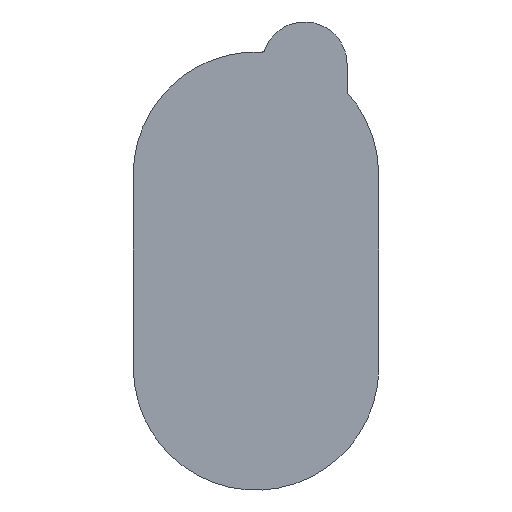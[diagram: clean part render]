
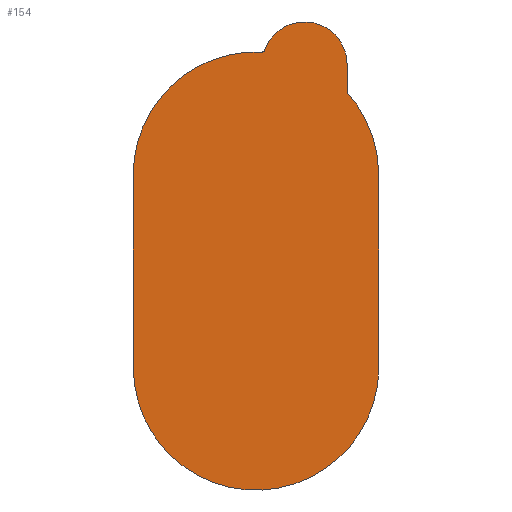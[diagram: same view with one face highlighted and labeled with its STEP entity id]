
A CAD part, front view. The second image highlights one B-rep face of the part: STEP entity #154.
In plain terms, the highlighted planar face has unit normal (0, -1, 0).
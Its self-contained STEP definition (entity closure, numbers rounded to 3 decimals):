
#154=ADVANCED_FACE('',(#213),#1050,.T.);
#213=FACE_OUTER_BOUND('',#288,.T.);
#288=EDGE_LOOP('',(#574,#575,#576,#577,#578,#579,#580,#581,#582));
#574=ORIENTED_EDGE('',*,*,#705,.T.);
#575=ORIENTED_EDGE('',*,*,#709,.T.);
#576=ORIENTED_EDGE('',*,*,#712,.T.);
#577=ORIENTED_EDGE('',*,*,#715,.T.);
#578=ORIENTED_EDGE('',*,*,#718,.T.);
#579=ORIENTED_EDGE('',*,*,#721,.T.);
#580=ORIENTED_EDGE('',*,*,#724,.T.);
#581=ORIENTED_EDGE('',*,*,#727,.T.);
#582=ORIENTED_EDGE('',*,*,#729,.T.);
#705=EDGE_CURVE('',#977,#976,#770,.T.);
#709=EDGE_CURVE('',#976,#979,#774,.T.);
#712=EDGE_CURVE('',#979,#981,#777,.T.);
#715=EDGE_CURVE('',#981,#983,#780,.T.);
#718=EDGE_CURVE('',#983,#985,#783,.T.);
#721=EDGE_CURVE('',#985,#987,#786,.T.);
#724=EDGE_CURVE('',#987,#989,#789,.T.);
#727=EDGE_CURVE('',#989,#991,#792,.T.);
#729=EDGE_CURVE('',#991,#977,#794,.T.);
#770=(
BOUNDED_CURVE()
B_SPLINE_CURVE(2,(#1991,#1992,#1993,#1994,#1995,#1996,#1997,#1998,#1999),
 .UNSPECIFIED.,.F.,.F.)
B_SPLINE_CURVE_WITH_KNOTS((3,2,2,2,3),(-3452.314,-3177.112,
-2901.909,-2626.707,-2351.505),.UNSPECIFIED.)
CURVE()
GEOMETRIC_REPRESENTATION_ITEM()
RATIONAL_B_SPLINE_CURVE((1.,0.924,1.,0.924,1.,0.924,
1.,0.924,1.))
REPRESENTATION_ITEM('')
);
#774=(
BOUNDED_CURVE()
B_SPLINE_CURVE(2,(#2007,#2008,#2009),.UNSPECIFIED.,.F.,.F.)
B_SPLINE_CURVE_WITH_KNOTS((3,3),(-2351.505,-1802.756),
 .UNSPECIFIED.)
CURVE()
GEOMETRIC_REPRESENTATION_ITEM()
RATIONAL_B_SPLINE_CURVE((1.,1.,1.))
REPRESENTATION_ITEM('')
);
#777=(
BOUNDED_CURVE()
B_SPLINE_CURVE(2,(#2015,#2016,#2017),.UNSPECIFIED.,.F.,.F.)
B_SPLINE_CURVE_WITH_KNOTS((3,3),(-1802.756,-1547.691),
 .UNSPECIFIED.)
CURVE()
GEOMETRIC_REPRESENTATION_ITEM()
RATIONAL_B_SPLINE_CURVE((1.,0.934,1.))
REPRESENTATION_ITEM('')
);
#780=(
BOUNDED_CURVE()
B_SPLINE_CURVE(2,(#2023,#2024,#2025),.UNSPECIFIED.,.F.,.F.)
B_SPLINE_CURVE_WITH_KNOTS((3,3),(-1547.691,-1543.329),
 .UNSPECIFIED.)
CURVE()
GEOMETRIC_REPRESENTATION_ITEM()
RATIONAL_B_SPLINE_CURVE((1.,0.935,1.))
REPRESENTATION_ITEM('')
);
#783=(
BOUNDED_CURVE()
B_SPLINE_CURVE(2,(#2031,#2032,#2033),.UNSPECIFIED.,.F.,.F.)
B_SPLINE_CURVE_WITH_KNOTS((3,3),(-1543.329,-1465.93),
 .UNSPECIFIED.)
CURVE()
GEOMETRIC_REPRESENTATION_ITEM()
RATIONAL_B_SPLINE_CURVE((1.,1.,1.))
REPRESENTATION_ITEM('')
);
#786=(
BOUNDED_CURVE()
B_SPLINE_CURVE(2,(#2041,#2042,#2043,#2044,#2045),.UNSPECIFIED.,.F.,.F.)
B_SPLINE_CURVE_WITH_KNOTS((3,2,3),(-1465.93,-1295.242,
-1124.554),.UNSPECIFIED.)
CURVE()
GEOMETRIC_REPRESENTATION_ITEM()
RATIONAL_B_SPLINE_CURVE((1.,0.763,1.,0.763,1.))
REPRESENTATION_ITEM('')
);
#789=(
BOUNDED_CURVE()
B_SPLINE_CURVE(2,(#2051,#2052,#2053),.UNSPECIFIED.,.F.,.F.)
B_SPLINE_CURVE_WITH_KNOTS((3,3),(-1124.554,-1116.818),
 .UNSPECIFIED.)
CURVE()
GEOMETRIC_REPRESENTATION_ITEM()
RATIONAL_B_SPLINE_CURVE((1.,0.799,1.))
REPRESENTATION_ITEM('')
);
#792=(
BOUNDED_CURVE()
B_SPLINE_CURVE(2,(#2061,#2062,#2063,#2064,#2065),.UNSPECIFIED.,.F.,.F.)
B_SPLINE_CURVE_WITH_KNOTS((3,2,3),(-1116.818,-832.783,
-548.749),.UNSPECIFIED.)
CURVE()
GEOMETRIC_REPRESENTATION_ITEM()
RATIONAL_B_SPLINE_CURVE((1.,0.919,1.,0.919,1.))
REPRESENTATION_ITEM('')
);
#794=(
BOUNDED_CURVE()
B_SPLINE_CURVE(2,(#2069,#2070,#2071),.UNSPECIFIED.,.F.,.F.)
B_SPLINE_CURVE_WITH_KNOTS((3,3),(-548.749,0.),.UNSPECIFIED.)
CURVE()
GEOMETRIC_REPRESENTATION_ITEM()
RATIONAL_B_SPLINE_CURVE((1.,1.,1.))
REPRESENTATION_ITEM('')
);
#976=VERTEX_POINT('',#1964);
#977=VERTEX_POINT('',#1965);
#979=VERTEX_POINT('',#1967);
#981=VERTEX_POINT('',#1969);
#983=VERTEX_POINT('',#1971);
#985=VERTEX_POINT('',#1973);
#987=VERTEX_POINT('',#1975);
#989=VERTEX_POINT('',#1977);
#991=VERTEX_POINT('',#1979);
#1050=PLANE('',#1112);
#1112=AXIS2_PLACEMENT_3D('',#1961,#1158,$);
#1158=DIRECTION('',(0.,-1.,0.));
#1961=CARTESIAN_POINT('',(787.501,98.734,1399.704));
#1964=CARTESIAN_POINT('',(700.,98.734,247.892));
#1965=CARTESIAN_POINT('',(0.,98.734,247.892));
#1967=CARTESIAN_POINT('',(700.,98.734,796.641));
#1969=CARTESIAN_POINT('',(611.517,98.734,1029.879));
#1971=CARTESIAN_POINT('',(610.001,98.734,1033.867));
#1973=CARTESIAN_POINT('',(610.001,98.734,1111.266));
#1975=CARTESIAN_POINT('',(373.632,98.734,1150.858));
#1977=CARTESIAN_POINT('',(367.657,98.734,1146.82));
#1979=CARTESIAN_POINT('',(0.,98.734,796.641));
#1991=CARTESIAN_POINT('',(0.,98.734,247.892));
#1992=CARTESIAN_POINT('',(-0.259,98.734,102.734));
#1993=CARTESIAN_POINT('',(102.291,98.734,0.));
#1994=CARTESIAN_POINT('',(204.842,98.734,-102.734));
#1995=CARTESIAN_POINT('',(350.,98.734,-102.734));
#1996=CARTESIAN_POINT('',(495.158,98.734,-102.734));
#1997=CARTESIAN_POINT('',(597.709,98.734,0.));
#1998=CARTESIAN_POINT('',(700.259,98.734,102.734));
#1999=CARTESIAN_POINT('',(700.,98.734,247.892));
#2007=CARTESIAN_POINT('',(700.,98.734,247.892));
#2008=CARTESIAN_POINT('',(700.,98.734,522.266));
#2009=CARTESIAN_POINT('',(700.,98.734,796.641));
#2015=CARTESIAN_POINT('',(700.,98.734,796.641));
#2016=CARTESIAN_POINT('',(700.238,98.734,930.134));
#2017=CARTESIAN_POINT('',(611.517,98.734,1029.879));
#2023=CARTESIAN_POINT('',(611.517,98.734,1029.879));
#2024=CARTESIAN_POINT('',(610.001,98.734,1031.584));
#2025=CARTESIAN_POINT('',(610.001,98.734,1033.867));
#2031=CARTESIAN_POINT('',(610.001,98.734,1033.867));
#2032=CARTESIAN_POINT('',(610.001,98.734,1072.566));
#2033=CARTESIAN_POINT('',(610.001,98.734,1111.266));
#2041=CARTESIAN_POINT('',(610.001,98.734,1111.266));
#2042=CARTESIAN_POINT('',(610.001,98.734,1214.108));
#2043=CARTESIAN_POINT('',(508.572,98.734,1231.097));
#2044=CARTESIAN_POINT('',(407.144,98.734,1248.086));
#2045=CARTESIAN_POINT('',(373.632,98.734,1150.858));
#2051=CARTESIAN_POINT('',(373.632,98.734,1150.858));
#2052=CARTESIAN_POINT('',(372.162,98.734,1146.593));
#2053=CARTESIAN_POINT('',(367.657,98.734,1146.82));
#2061=CARTESIAN_POINT('',(367.657,98.734,1146.82));
#2062=CARTESIAN_POINT('',(217.487,98.734,1154.406));
#2063=CARTESIAN_POINT('',(108.609,98.734,1050.704));
#2064=CARTESIAN_POINT('',(-0.269,98.734,947.002));
#2065=CARTESIAN_POINT('',(0.,98.734,796.641));
#2069=CARTESIAN_POINT('',(0.,98.734,796.641));
#2070=CARTESIAN_POINT('',(0.,98.734,522.266));
#2071=CARTESIAN_POINT('',(0.,98.734,247.892));
